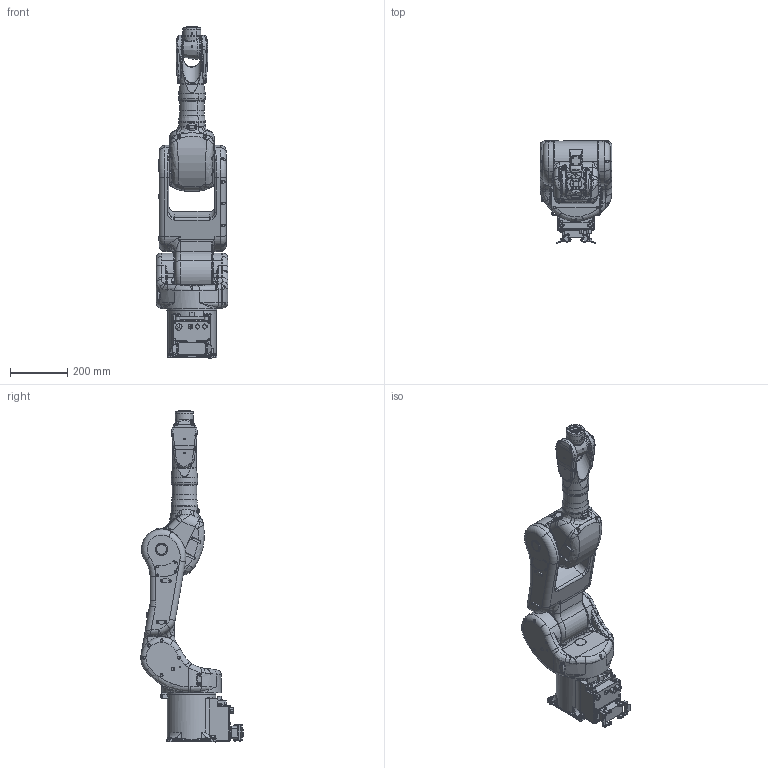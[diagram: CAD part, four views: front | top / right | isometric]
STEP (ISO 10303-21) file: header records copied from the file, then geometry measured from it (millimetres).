
FILE_DESCRIPTION(('CATIA V5 STEP Exchange','CAx-IF Rec.Pracs.--- Composite Materials ---3.4---2017-06-13'),'2;1');
FILE_NAME('D:\モデリング\☆☆☆STEP\RS\RS005\RS005L-A001_RARAS_200515\軽量化\Part\step\確認用\RA005L-A001_220210\RA005L-A001.stp','2022-02-10T03:31:42+00:00',('none'),('none'),'CATIA Version 5-6 Release 2020 SP4 HF11','CATIA V5 STEP AP203 v2','none');
FILE_SCHEMA(('CONFIG_CONTROL_DESIGN'));
Length unit declared in the file: millimetre
Products named in the file (1): RA005L-A001
Assembly tree (7 placements, depth 2):
  RA005L-A001
    #57
    #36745
    #59150
    #73137
    #97900
    #123906
    #127302
Bounding box: 251 x 358.55 x 1163 mm (x, y, z)
Volume: 24951672.5 mm3; surface area: 1208643.8 mm2
Topology: 8 solids, 8 shells, 3119 faces, 7812 edges, 4795 vertices
Faces by surface type: cylinder 1175, plane 1011, bspline 485, torus 199, cone 189, sphere 42, extrusion 12, revolution 6
Entity records: 128516 total; most frequent: CARTESIAN_POINT 62262, ORIENTED_EDGE 15278, DIRECTION 10135, EDGE_CURVE 7639, AXIS2_PLACEMENT_3D 4887, VERTEX_POINT 4795, EDGE_LOOP 3420, ADVANCED_FACE 3119
